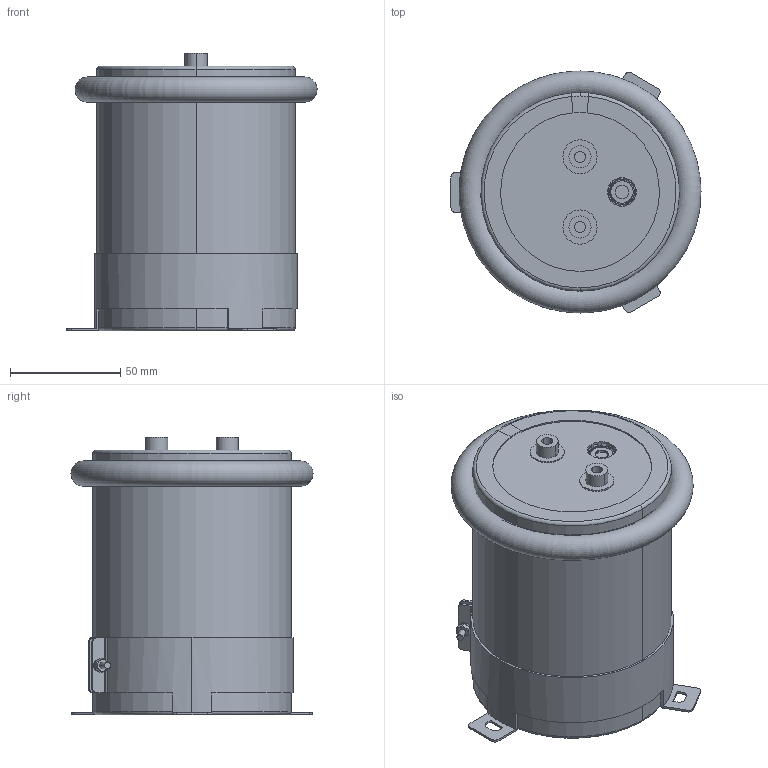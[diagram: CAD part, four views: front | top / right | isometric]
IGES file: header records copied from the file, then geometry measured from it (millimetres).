
Start section: 3D InterOp IGES (v. 2019 1.0.2), Spatial Corp. Copyright (c) 1999-2017.
Global section: file name: 90x120_Screw.igs; native system: Spatial Corp.; preprocessor: 3D InterOp ACIS/IGES; author: Noname; organization: Noname; date: 20220314.170740; units: millimetre
Bounding box: 113.35 x 109.7 x 126 mm (x, y, z)
Volume: 1108094.7 mm3; surface area: 282023.6 mm2
Topology: 9 solids, 9 shells, 352 faces, 953 edges, 591 vertices
Faces by surface type: plane 112, cylinder 110, torus 90, cone 38, sphere 2
